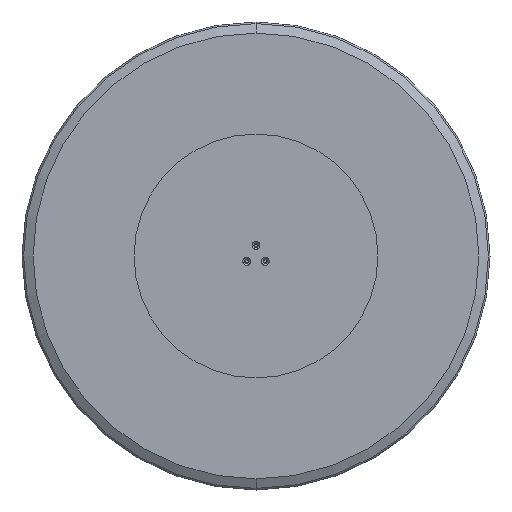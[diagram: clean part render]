
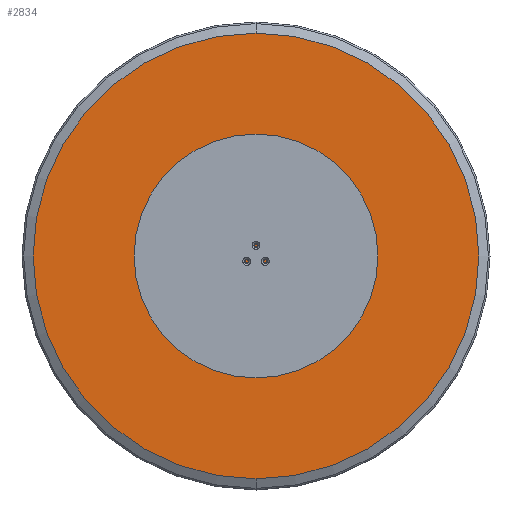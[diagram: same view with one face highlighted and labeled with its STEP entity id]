
A CAD part, front view. The second image highlights one B-rep face of the part: STEP entity #2834.
In plain terms, the highlighted planar face has unit normal (0, -1, 0).
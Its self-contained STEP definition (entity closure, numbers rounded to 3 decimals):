
#72 = ORIENTED_EDGE ( 'NONE', *, *, #1527, .F. ) ;
#80 = AXIS2_PLACEMENT_3D ( 'NONE', #2603, #3555, #538 ) ;
#111 = AXIS2_PLACEMENT_3D ( 'NONE', #1389, #2984, #3290 ) ;
#131 = EDGE_LOOP ( 'NONE', ( #3544, #747 ) ) ;
#133 = DIRECTION ( 'NONE',  ( 0., -1., 0. ) ) ;
#144 = VERTEX_POINT ( 'NONE', #401 ) ;
#184 = CARTESIAN_POINT ( 'NONE',  ( -95., 0., -54.848 ) ) ;
#297 = CIRCLE ( 'NONE', #356, 484.323 ) ;
#299 = DIRECTION ( 'NONE',  ( 0., 1., 0. ) ) ;
#316 = ORIENTED_EDGE ( 'NONE', *, *, #557, .F. ) ;
#356 = AXIS2_PLACEMENT_3D ( 'NONE', #622, #299, #1252 ) ;
#401 = CARTESIAN_POINT ( 'NONE',  ( 95., 0., -58.248 ) ) ;
#538 = DIRECTION ( 'NONE',  ( 0., 0., 1. ) ) ;
#553 = CIRCLE ( 'NONE', #1057, 3.4 ) ;
#557 = EDGE_CURVE ( 'NONE', #2340, #3098, #1464, .T. ) ;
#563 = DIRECTION ( 'NONE',  ( 0., 1., 0. ) ) ;
#593 = VERTEX_POINT ( 'NONE', #3066 ) ;
#622 = CARTESIAN_POINT ( 'NONE',  ( 0., 0., 0. ) ) ;
#660 = ORIENTED_EDGE ( 'NONE', *, *, #3152, .T. ) ;
#747 = ORIENTED_EDGE ( 'NONE', *, *, #3082, .T. ) ;
#782 = CARTESIAN_POINT ( 'NONE',  ( 0., 0., 109.697 ) ) ;
#960 = CIRCLE ( 'NONE', #1917, 3.4 ) ;
#963 = CARTESIAN_POINT ( 'NONE',  ( 0., 0., -484.323 ) ) ;
#1057 = AXIS2_PLACEMENT_3D ( 'NONE', #2232, #3434, #1345 ) ;
#1101 = VERTEX_POINT ( 'NONE', #3306 ) ;
#1252 = DIRECTION ( 'NONE',  ( 0., 0., 1. ) ) ;
#1274 = VERTEX_POINT ( 'NONE', #2235 ) ;
#1280 = DIRECTION ( 'NONE',  ( 0., 1., 0. ) ) ;
#1292 = EDGE_LOOP ( 'NONE', ( #72, #316 ) ) ;
#1345 = DIRECTION ( 'NONE',  ( 0., 0., 1. ) ) ;
#1389 = CARTESIAN_POINT ( 'NONE',  ( -95., 0., -54.848 ) ) ;
#1412 = CARTESIAN_POINT ( 'NONE',  ( -95., 0., -58.248 ) ) ;
#1458 = VERTEX_POINT ( 'NONE', #1412 ) ;
#1464 = CIRCLE ( 'NONE', #2978, 484.323 ) ;
#1485 = EDGE_CURVE ( 'NONE', #1787, #1101, #3786, .T. ) ;
#1527 = EDGE_CURVE ( 'NONE', #3098, #2340, #297, .T. ) ;
#1556 = CARTESIAN_POINT ( 'NONE',  ( 0., 0., 109.697 ) ) ;
#1707 = EDGE_LOOP ( 'NONE', ( #2557, #3570 ) ) ;
#1787 = VERTEX_POINT ( 'NONE', #2520 ) ;
#1789 = CIRCLE ( 'NONE', #80, 3.4 ) ;
#1797 = EDGE_CURVE ( 'NONE', #593, #144, #553, .T. ) ;
#1802 = FACE_BOUND ( 'NONE', #131, .T. ) ;
#1847 = ORIENTED_EDGE ( 'NONE', *, *, #1485, .T. ) ;
#1917 = AXIS2_PLACEMENT_3D ( 'NONE', #782, #563, #2332 ) ;
#1957 = PLANE ( 'NONE',  #2236 ) ;
#2010 = EDGE_CURVE ( 'NONE', #1274, #1458, #3718, .T. ) ;
#2084 = CARTESIAN_POINT ( 'NONE',  ( 0., 0., 484.323 ) ) ;
#2090 = AXIS2_PLACEMENT_3D ( 'NONE', #1556, #3889, #2465 ) ;
#2232 = CARTESIAN_POINT ( 'NONE',  ( 95., 0., -54.848 ) ) ;
#2235 = CARTESIAN_POINT ( 'NONE',  ( -95., 0., -51.448 ) ) ;
#2236 = AXIS2_PLACEMENT_3D ( 'NONE', #3163, #133, #2842 ) ;
#2332 = DIRECTION ( 'NONE',  ( 0., 0., 1. ) ) ;
#2340 = VERTEX_POINT ( 'NONE', #963 ) ;
#2465 = DIRECTION ( 'NONE',  ( 0., 0., 1. ) ) ;
#2486 = CIRCLE ( 'NONE', #3247, 3.4 ) ;
#2489 = FACE_BOUND ( 'NONE', #1707, .T. ) ;
#2520 = CARTESIAN_POINT ( 'NONE',  ( 0., 0., 113.097 ) ) ;
#2557 = ORIENTED_EDGE ( 'NONE', *, *, #2010, .T. ) ;
#2603 = CARTESIAN_POINT ( 'NONE',  ( 95., 0., -54.848 ) ) ;
#2774 = CARTESIAN_POINT ( 'NONE',  ( 0., 0., 0. ) ) ;
#2834 = ADVANCED_FACE ( 'NONE', ( #2489, #1802, #2998, #3796 ), #1957, .T. ) ;
#2842 = DIRECTION ( 'NONE',  ( 0., 0., -1. ) ) ;
#2978 = AXIS2_PLACEMENT_3D ( 'NONE', #2774, #1280, #3369 ) ;
#2984 = DIRECTION ( 'NONE',  ( 0., 1., 0. ) ) ;
#2998 = FACE_BOUND ( 'NONE', #3011, .T. ) ;
#3011 = EDGE_LOOP ( 'NONE', ( #1847, #660 ) ) ;
#3066 = CARTESIAN_POINT ( 'NONE',  ( 95., 0., -51.448 ) ) ;
#3082 = EDGE_CURVE ( 'NONE', #144, #593, #1789, .T. ) ;
#3098 = VERTEX_POINT ( 'NONE', #2084 ) ;
#3152 = EDGE_CURVE ( 'NONE', #1101, #1787, #960, .T. ) ;
#3163 = CARTESIAN_POINT ( 'NONE',  ( 0., 0., 0. ) ) ;
#3236 = DIRECTION ( 'NONE',  ( 0., 1., 0. ) ) ;
#3247 = AXIS2_PLACEMENT_3D ( 'NONE', #184, #3236, #3794 ) ;
#3290 = DIRECTION ( 'NONE',  ( 0., 0., 1. ) ) ;
#3306 = CARTESIAN_POINT ( 'NONE',  ( 0., 0., 106.297 ) ) ;
#3369 = DIRECTION ( 'NONE',  ( 0., 0., 1. ) ) ;
#3434 = DIRECTION ( 'NONE',  ( 0., 1., 0. ) ) ;
#3544 = ORIENTED_EDGE ( 'NONE', *, *, #1797, .T. ) ;
#3555 = DIRECTION ( 'NONE',  ( 0., 1., 0. ) ) ;
#3570 = ORIENTED_EDGE ( 'NONE', *, *, #3689, .T. ) ;
#3689 = EDGE_CURVE ( 'NONE', #1458, #1274, #2486, .T. ) ;
#3718 = CIRCLE ( 'NONE', #111, 3.4 ) ;
#3786 = CIRCLE ( 'NONE', #2090, 3.4 ) ;
#3794 = DIRECTION ( 'NONE',  ( 0., 0., 1. ) ) ;
#3796 = FACE_OUTER_BOUND ( 'NONE', #1292, .T. ) ;
#3889 = DIRECTION ( 'NONE',  ( 0., 1., 0. ) ) ;
